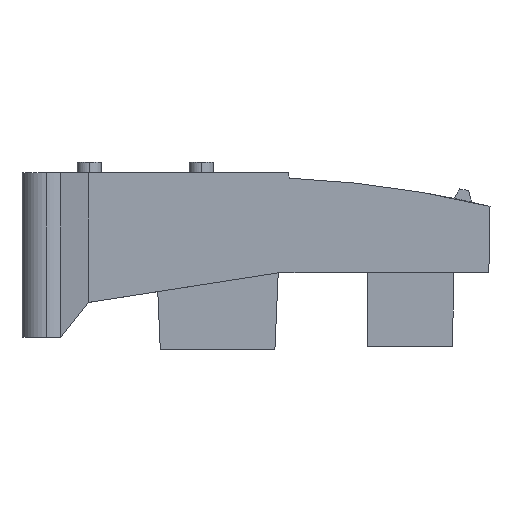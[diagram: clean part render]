
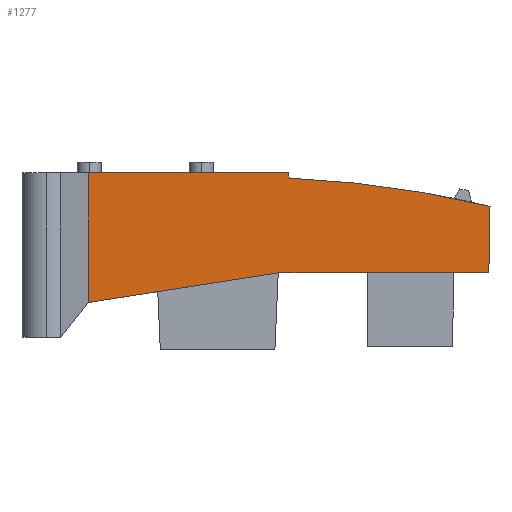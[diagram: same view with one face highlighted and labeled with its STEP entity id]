
A CAD part, left-side view. The second image highlights one B-rep face of the part: STEP entity #1277.
In plain terms, the highlighted planar face has unit normal (-1, 0, 0).
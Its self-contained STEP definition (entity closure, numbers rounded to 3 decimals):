
#24 = LINE ( 'NONE', #1294, #25 ) ;
#25 = VECTOR ( 'NONE', #1295, 1000. ) ;
#26 = LINE ( 'NONE', #1296, #27 ) ;
#27 = VECTOR ( 'NONE', #1297, 1000. ) ;
#48 = VERTEX_POINT ( 'NONE', #336 ) ;
#53 = CARTESIAN_POINT ( 'NONE',  ( -7., 0.46, 37.41 ) ) ;
#56 = CARTESIAN_POINT ( 'NONE',  ( -7., 57.786, 45.473 ) ) ;
#63 = CARTESIAN_POINT ( 'NONE',  ( -7., 115., 47. ) ) ;
#70 = DIRECTION ( 'NONE',  ( 0., 0., -1. ) ) ;
#130 = CARTESIAN_POINT ( 'NONE',  ( -7., 70.712, -254.248 ) ) ;
#131 = DIRECTION ( 'NONE',  ( -1., 0., 0. ) ) ;
#132 = DIRECTION ( 'NONE',  ( 0., 0., -1. ) ) ;
#161 = CARTESIAN_POINT ( 'NONE',  ( -7., 0.79, 18.5 ) ) ;
#162 = CARTESIAN_POINT ( 'NONE',  ( -7., 60.4, 18.5 ) ) ;
#177 = CARTESIAN_POINT ( 'NONE',  ( -7., 115., 10. ) ) ;
#213 = EDGE_CURVE ( 'NONE', #48, #1548, #1440, .T. ) ;
#221 = EDGE_CURVE ( 'NONE', #258, #263, #1457, .T. ) ;
#249 = CARTESIAN_POINT ( 'NONE',  ( -7., 0., 47. ) ) ;
#258 = VERTEX_POINT ( 'NONE', #53 ) ;
#263 = VERTEX_POINT ( 'NONE', #56 ) ;
#336 = CARTESIAN_POINT ( 'NONE',  ( -7., 115., 47. ) ) ;
#383 = EDGE_LOOP ( 'NONE', ( #428, #429, #430, #431, #432, #433, #434 ) ) ;
#428 = ORIENTED_EDGE ( 'NONE', *, *, #221, .T. ) ;
#429 = ORIENTED_EDGE ( 'NONE', *, *, #876, .T. ) ;
#430 = ORIENTED_EDGE ( 'NONE', *, *, #213, .F. ) ;
#431 = ORIENTED_EDGE ( 'NONE', *, *, #583, .T. ) ;
#432 = ORIENTED_EDGE ( 'NONE', *, *, #874, .T. ) ;
#433 = ORIENTED_EDGE ( 'NONE', *, *, #850, .T. ) ;
#434 = ORIENTED_EDGE ( 'NONE', *, *, #848, .T. ) ;
#583 = EDGE_CURVE ( 'NONE', #48, #692, #956, .T. ) ;
#677 = VERTEX_POINT ( 'NONE', #162 ) ;
#679 = VERTEX_POINT ( 'NONE', #161 ) ;
#692 = VERTEX_POINT ( 'NONE', #177 ) ;
#830 = FACE_OUTER_BOUND ( 'NONE', #383, .T. ) ;
#848 = EDGE_CURVE ( 'NONE', #679, #258, #24, .T. ) ;
#850 = EDGE_CURVE ( 'NONE', #677, #679, #26, .T. ) ;
#852 = PLANE ( 'NONE',  #1154 ) ;
#858 = CARTESIAN_POINT ( 'NONE',  ( -7., 0., 47. ) ) ;
#870 = DIRECTION ( 'NONE',  ( 1., 0., 0. ) ) ;
#872 = DIRECTION ( 'NONE',  ( 0., 0., -1. ) ) ;
#874 = EDGE_CURVE ( 'NONE', #692, #677, #918, .T. ) ;
#876 = EDGE_CURVE ( 'NONE', #263, #1548, #920, .T. ) ;
#918 = LINE ( 'NONE', #1318, #919 ) ;
#919 = VECTOR ( 'NONE', #1319, 1000. ) ;
#920 = LINE ( 'NONE', #1320, #921 ) ;
#921 = VECTOR ( 'NONE', #1321, 1000. ) ;
#956 = LINE ( 'NONE', #63, #958 ) ;
#958 = VECTOR ( 'NONE', #70, 1000. ) ;
#1154 = AXIS2_PLACEMENT_3D ( 'NONE', #858, #870, #872 ) ;
#1179 = DIRECTION ( 'NONE',  ( 0., -1., 0. ) ) ;
#1213 = CARTESIAN_POINT ( 'NONE',  ( -7., 57.92, 47. ) ) ;
#1277 = ADVANCED_FACE ( 'NONE', ( #830 ), #852, .F. ) ;
#1294 = CARTESIAN_POINT ( 'NONE',  ( -7., 0.79, 18.5 ) ) ;
#1295 = DIRECTION ( 'NONE',  ( 0., -0.017, 1. ) ) ;
#1296 = CARTESIAN_POINT ( 'NONE',  ( -7., 60.4, 18.5 ) ) ;
#1297 = DIRECTION ( 'NONE',  ( 0., -1., 0. ) ) ;
#1318 = CARTESIAN_POINT ( 'NONE',  ( -7., 115., 10. ) ) ;
#1319 = DIRECTION ( 'NONE',  ( 0., -0.988, 0.154 ) ) ;
#1320 = CARTESIAN_POINT ( 'NONE',  ( -7., 57.92, 47. ) ) ;
#1321 = DIRECTION ( 'NONE',  ( 0., 0.087, 0.996 ) ) ;
#1440 = LINE ( 'NONE', #249, #1442 ) ;
#1442 = VECTOR ( 'NONE', #1179, 1000. ) ;
#1457 = CIRCLE ( 'NONE', #1463, 300. ) ;
#1463 = AXIS2_PLACEMENT_3D ( 'NONE', #130, #131, #132 ) ;
#1548 = VERTEX_POINT ( 'NONE', #1213 ) ;
